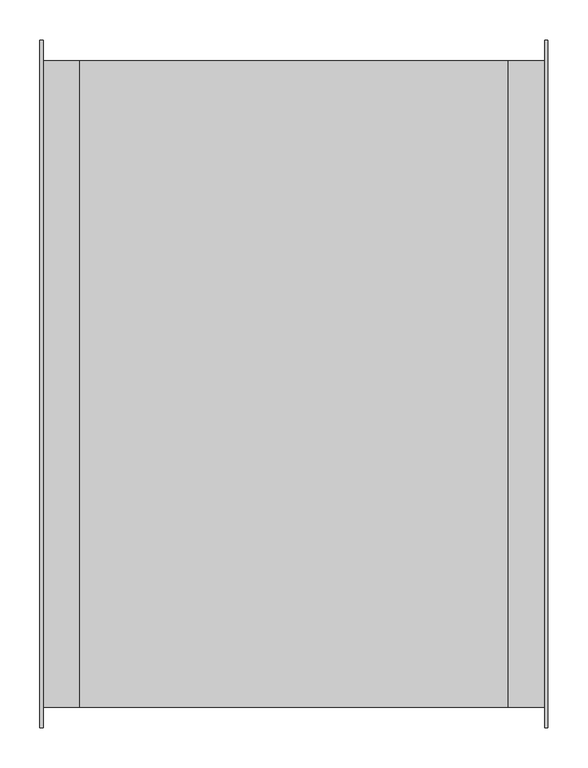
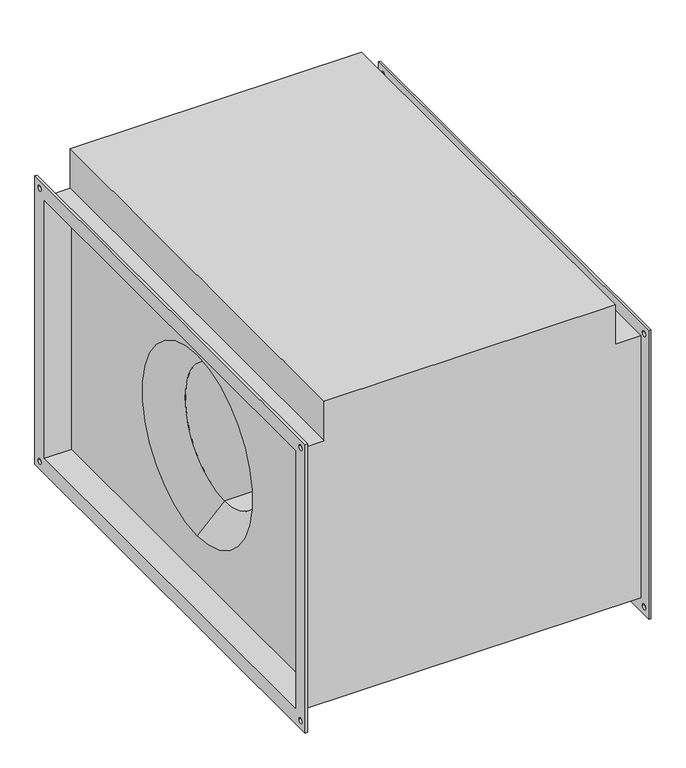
"""IFC4 building model written with IfcOpenShell, lengths in millimetres: proxy geometry, СВ_Вентилятор_КанальныйПрямоугольный_200-1000_SVPS : SVPS-800x500/35.2D."""

from ifc_helpers import new_model, si_unit, frame, origin, place, context, project, spatial, polyline, circle_curve, source, transform, mapped, element, save
from ifc_brep_helpers import plane_surface, revolved_surface, advanced_brep


def mechanical_equipment_bd9f517a(model_context):
    return source(origin(), model_context, "Body", "AdvancedBrep", [
        advanced_brep(
        [(-313.5, -404.0, 254.0), (-267.5, -404.0, 254.0), (-267.5, 404.0, 254.0), (-313.5, 404.0, 254.0), (267.5, 404.0, 331.0), (267.5, -404.0, 331.0), (267.5, -404.0, 254.0), (267.5, 404.0, 254.0), (267.5, 400.0, -250.0), (267.5, 400.0, 250.0), (267.5, -400.0, 250.0), (267.5, -400.0, -250.0), (267.5, 0.0, 175.0), (267.5, 0.0, -175.0), (-267.5, 400.0, 250.0), (-267.5, 400.0, -250.0), (-267.5, -400.0, -250.0), (-267.5, -400.0, 250.0), (-267.5, 0.0, -175.0), (-267.5, 0.0, 175.0), (-267.5, -404.0, 331.0), (-267.5, 404.0, 331.0), (-313.5, -404.0, -254.0), (313.5, -404.0, -254.0), (313.5, -404.0, 254.0), (-313.5, 404.0, -254.0), (313.5, 404.0, -254.0), (313.5, 404.0, 254.0), (217.5, 0.0, -125.0), (217.5, 0.0, 125.0), (-217.5, 0.0, 125.0), (-217.5, 0.0, -125.0), (-317.5, -430.0, 280.0), (-317.5, 430.0, 280.0), (-317.5, 430.0, -280.0), (-317.5, -430.0, -280.0), (-317.5, -400.0, 250.0), (-317.5, -400.0, -250.0), (-317.5, 400.0, -250.0), (-317.5, 400.0, 250.0), (-317.5, 410.0, 265.0), (-317.5, 420.0, 265.0), (-317.5, -420.0, 265.0), (-317.5, -410.0, 265.0), (-317.5, -420.0, -265.0), (-317.5, -410.0, -265.0), (-317.5, 410.0, -265.0), (-317.5, 420.0, -265.0), (-313.5, -430.0, 280.0), (-313.5, -430.0, -280.0), (-313.5, 430.0, -280.0), (-313.5, 430.0, 280.0), (-313.5, 420.0, 265.0), (-313.5, 410.0, 265.0), (-313.5, -410.0, 265.0), (-313.5, -420.0, 265.0), (-313.5, -410.0, -265.0), (-313.5, -420.0, -265.0), (-313.5, 420.0, -265.0), (-313.5, 410.0, -265.0), (313.5, 430.0, 280.0), (313.5, 430.0, -280.0), (313.5, -430.0, -280.0), (313.5, -430.0, 280.0), (313.5, 410.0, 265.0), (313.5, 420.0, 265.0), (313.5, -420.0, 265.0), (313.5, -410.0, 265.0), (313.5, -420.0, -265.0), (313.5, -410.0, -265.0), (313.5, 410.0, -265.0), (313.5, 420.0, -265.0), (317.5, 430.0, 280.0), (317.5, -430.0, 280.0), (317.5, -430.0, -280.0), (317.5, 430.0, -280.0), (317.5, 400.0, 250.0), (317.5, 400.0, -250.0), (317.5, -400.0, -250.0), (317.5, -400.0, 250.0), (317.5, 420.0, 265.0), (317.5, 410.0, 265.0), (317.5, -410.0, 265.0), (317.5, -420.0, 265.0), (317.5, -410.0, -265.0), (317.5, -420.0, -265.0), (317.5, 420.0, -265.0), (317.5, 410.0, -265.0)],
        [
            (0, 1),
            (1, 2),
            (2, 3),
            (3, 0),
            (4, 5),
            (5, 6),
            (6, 7),
            (7, 4),
            (8, 9),
            (9, 10),
            (10, 11),
            (11, 8),
            (12, 13, circle_curve(frame((267.5, 0.0, 0.0), z_axis=(-1.0, 0.0, 0.0), x_axis=(0.0, 0.0, 1.0)), 175.0)),
            (13, 12, circle_curve(frame((267.5, 0.0, 0.0), z_axis=(-1.0, 0.0, 0.0), x_axis=(0.0, 0.0, 1.0)), 175.0)),
            (14, 15),
            (15, 16),
            (16, 17),
            (17, 14),
            (18, 19, circle_curve(frame((-267.5, 0.0, 0.0), z_axis=(1.0, 0.0, 0.0), x_axis=(0.0, 0.0, 1.0)), 175.0)),
            (19, 18, circle_curve(frame((-267.5, 0.0, 0.0), z_axis=(1.0, 0.0, 0.0), x_axis=(0.0, 0.0, 1.0)), 175.0)),
            (20, 21),
            (21, 2),
            (1, 20),
            (5, 20),
            (0, 22),
            (22, 23),
            (23, 24),
            (24, 6),
            (22, 25),
            (25, 26),
            (26, 23),
            (21, 4),
            (7, 27),
            (27, 26),
            (25, 3),
            (24, 27),
            (28, 13),
            (12, 29),
            (29, 28, circle_curve(frame((217.5, 0.0, 0.0), z_axis=(-1.0, 0.0, 0.0), x_axis=(0.0, 0.0, 1.0)), 125.0)),
            (28, 29, circle_curve(frame((217.5, 0.0, 0.0), z_axis=(-1.0, 0.0, 0.0), x_axis=(0.0, 0.0, 1.0)), 125.0)),
            (29, 30),
            (30, 31, circle_curve(frame((-217.5, 0.0, 0.0), z_axis=(-1.0, 0.0, 0.0), x_axis=(0.0, 0.0, 1.0)), 125.0)),
            (31, 28),
            (31, 30, circle_curve(frame((-217.5, 0.0, 0.0), z_axis=(-1.0, 0.0, 0.0), x_axis=(0.0, 0.0, 1.0)), 125.0)),
            (30, 19),
            (18, 31),
            (32, 33),
            (33, 34),
            (34, 35),
            (35, 32),
            (36, 37),
            (37, 38),
            (38, 39),
            (39, 36),
            (40, 41, circle_curve(frame((-317.5, 415.0, 265.0), z_axis=(1.0, 0.0, 0.0), x_axis=(0.0, 1.0, 0.0)), 5.0)),
            (41, 40, circle_curve(frame((-317.5, 415.0, 265.0), z_axis=(1.0, 0.0, 0.0), x_axis=(0.0, 1.0, 0.0)), 5.0)),
            (42, 43, circle_curve(frame((-317.5, -415.0, 265.0), z_axis=(1.0, 0.0, 0.0), x_axis=(0.0, 1.0, 0.0)), 5.0)),
            (43, 42, circle_curve(frame((-317.5, -415.0, 265.0), z_axis=(1.0, 0.0, 0.0), x_axis=(0.0, 1.0, 0.0)), 5.0)),
            (44, 45, circle_curve(frame((-317.5, -415.0, -265.0), z_axis=(1.0, 0.0, 0.0), x_axis=(0.0, 1.0, 0.0)), 5.0)),
            (45, 44, circle_curve(frame((-317.5, -415.0, -265.0), z_axis=(1.0, 0.0, 0.0), x_axis=(0.0, 1.0, 0.0)), 5.0)),
            (46, 47, circle_curve(frame((-317.5, 415.0, -265.0), z_axis=(1.0, 0.0, 0.0), x_axis=(0.0, 1.0, 0.0)), 5.0)),
            (47, 46, circle_curve(frame((-317.5, 415.0, -265.0), z_axis=(1.0, 0.0, 0.0), x_axis=(0.0, 1.0, 0.0)), 5.0)),
            (48, 49),
            (49, 50),
            (50, 51),
            (51, 48),
            (52, 53, circle_curve(frame((-313.5, 415.0, 265.0), z_axis=(-1.0, 0.0, 0.0), x_axis=(0.0, 1.0, 0.0)), 5.0)),
            (53, 52, circle_curve(frame((-313.5, 415.0, 265.0), z_axis=(-1.0, 0.0, 0.0), x_axis=(0.0, 1.0, 0.0)), 5.0)),
            (54, 55, circle_curve(frame((-313.5, -415.0, 265.0), z_axis=(-1.0, 0.0, 0.0), x_axis=(0.0, 1.0, 0.0)), 5.0)),
            (55, 54, circle_curve(frame((-313.5, -415.0, 265.0), z_axis=(-1.0, 0.0, 0.0), x_axis=(0.0, 1.0, 0.0)), 5.0)),
            (56, 57, circle_curve(frame((-313.5, -415.0, -265.0), z_axis=(-1.0, 0.0, 0.0), x_axis=(0.0, 1.0, 0.0)), 5.0)),
            (57, 56, circle_curve(frame((-313.5, -415.0, -265.0), z_axis=(-1.0, 0.0, 0.0), x_axis=(0.0, 1.0, 0.0)), 5.0)),
            (58, 59, circle_curve(frame((-313.5, 415.0, -265.0), z_axis=(-1.0, 0.0, 0.0), x_axis=(0.0, 1.0, 0.0)), 5.0)),
            (59, 58, circle_curve(frame((-313.5, 415.0, -265.0), z_axis=(-1.0, 0.0, 0.0), x_axis=(0.0, 1.0, 0.0)), 5.0)),
            (35, 49),
            (48, 32),
            (34, 50),
            (33, 51),
            (60, 61),
            (61, 62),
            (62, 63),
            (63, 60),
            (64, 65, circle_curve(frame((313.5, 415.0, 265.0), z_axis=(1.0, 0.0, 0.0), x_axis=(0.0, 1.0, 0.0)), 5.0)),
            (65, 64, circle_curve(frame((313.5, 415.0, 265.0), z_axis=(1.0, 0.0, 0.0), x_axis=(0.0, 1.0, 0.0)), 5.0)),
            (66, 67, circle_curve(frame((313.5, -415.0, 265.0), z_axis=(1.0, 0.0, 0.0), x_axis=(0.0, 1.0, 0.0)), 5.0)),
            (67, 66, circle_curve(frame((313.5, -415.0, 265.0), z_axis=(1.0, 0.0, 0.0), x_axis=(0.0, 1.0, 0.0)), 5.0)),
            (68, 69, circle_curve(frame((313.5, -415.0, -265.0), z_axis=(1.0, 0.0, 0.0), x_axis=(0.0, 1.0, 0.0)), 5.0)),
            (69, 68, circle_curve(frame((313.5, -415.0, -265.0), z_axis=(1.0, 0.0, 0.0), x_axis=(0.0, 1.0, 0.0)), 5.0)),
            (70, 71, circle_curve(frame((313.5, 415.0, -265.0), z_axis=(1.0, 0.0, 0.0), x_axis=(0.0, 1.0, 0.0)), 5.0)),
            (71, 70, circle_curve(frame((313.5, 415.0, -265.0), z_axis=(1.0, 0.0, 0.0), x_axis=(0.0, 1.0, 0.0)), 5.0)),
            (72, 73),
            (73, 74),
            (74, 75),
            (75, 72),
            (76, 77),
            (77, 78),
            (78, 79),
            (79, 76),
            (80, 81, circle_curve(frame((317.5, 415.0, 265.0), z_axis=(-1.0, 0.0, 0.0), x_axis=(0.0, 1.0, 0.0)), 5.0)),
            (81, 80, circle_curve(frame((317.5, 415.0, 265.0), z_axis=(-1.0, 0.0, 0.0), x_axis=(0.0, 1.0, 0.0)), 5.0)),
            (82, 83, circle_curve(frame((317.5, -415.0, 265.0), z_axis=(-1.0, 0.0, 0.0), x_axis=(0.0, 1.0, 0.0)), 5.0)),
            (83, 82, circle_curve(frame((317.5, -415.0, 265.0), z_axis=(-1.0, 0.0, 0.0), x_axis=(0.0, 1.0, 0.0)), 5.0)),
            (84, 85, circle_curve(frame((317.5, -415.0, -265.0), z_axis=(-1.0, 0.0, 0.0), x_axis=(0.0, 1.0, 0.0)), 5.0)),
            (85, 84, circle_curve(frame((317.5, -415.0, -265.0), z_axis=(-1.0, 0.0, 0.0), x_axis=(0.0, 1.0, 0.0)), 5.0)),
            (86, 87, circle_curve(frame((317.5, 415.0, -265.0), z_axis=(-1.0, 0.0, 0.0), x_axis=(0.0, 1.0, 0.0)), 5.0)),
            (87, 86, circle_curve(frame((317.5, 415.0, -265.0), z_axis=(-1.0, 0.0, 0.0), x_axis=(0.0, 1.0, 0.0)), 5.0)),
            (63, 73),
            (72, 60),
            (62, 74),
            (61, 75),
            (39, 14),
            (17, 36),
            (38, 15),
            (37, 16),
            (76, 9),
            (8, 77),
            (11, 78),
            (10, 79),
            (40, 53),
            (52, 41),
            (64, 81),
            (80, 65),
            (42, 55),
            (54, 43),
            (66, 83),
            (82, 67),
            (44, 57),
            (56, 45),
            (68, 85),
            (84, 69),
            (46, 59),
            (58, 47),
            (70, 87),
            (86, 71),
        ],
        [
            plane_surface(frame((-267.5, 404.0, 254.0), z_axis=(0.0, 0.0, 1.0), x_axis=(-1.0, 0.0, 0.0))),
            plane_surface(frame((267.5, -404.0, 331.0), z_axis=(1.0, 0.0, 0.0), x_axis=(0.0, 0.0, -1.0))),
            plane_surface(frame((-267.5, -404.0, 331.0), z_axis=(-1.0, 0.0, 0.0), x_axis=(0.0, 0.0, 1.0))),
            plane_surface(frame((267.5, -404.0, 331.0), z_axis=(0.0, -1.0, 0.0), x_axis=(-1.0, 0.0, 0.0))),
            plane_surface(frame((267.5, -404.0, -254.0), z_axis=(0.0, 0.0, -1.0), x_axis=(-1.0, 0.0, 0.0))),
            plane_surface(frame((267.5, 404.0, -254.0), z_axis=(0.0, 1.0, 0.0), x_axis=(-1.0, 0.0, 0.0))),
            plane_surface(frame((267.5, 404.0, 331.0), z_axis=(0.0, 0.0, 1.0), x_axis=(-1.0, 0.0, 0.0))),
            plane_surface(frame((313.5, 404.0, 254.0), z_axis=(0.0, 0.0, 1.0), x_axis=(-1.0, 0.0, 0.0))),
            revolved_surface(polyline([(217.5, 0.0, 125.0), (267.5, 0.0, 175.0)]), (-704.5617897, 0.0, 0.0), (-1.0, 0.0, 0.0)),
            revolved_surface(polyline([(-217.5, 0.0, 125.0), (217.5, 0.0, 125.0)]), (-704.5617897, 0.0, 0.0), (-1.0, 0.0, 0.0)),
            revolved_surface(polyline([(-267.5, 0.0, 175.0), (-217.5, 0.0, 125.0)]), (-704.5617897, 0.0, 0.0), (-1.0, 0.0, 0.0)),
            plane_surface(frame((-317.5, -430.0, 280.0), z_axis=(-1.0, 0.0, 0.0), x_axis=(0.0, 0.0, 1.0))),
            plane_surface(frame((-313.5, -430.0, 280.0), z_axis=(1.0, 0.0, 0.0), x_axis=(0.0, 0.0, -1.0))),
            plane_surface(frame((-313.5, -430.0, 280.0), z_axis=(0.0, -1.0, 0.0), x_axis=(-1.0, 0.0, 0.0))),
            plane_surface(frame((-313.5, -430.0, -280.0), z_axis=(0.0, 0.0, -1.0), x_axis=(-1.0, 0.0, 0.0))),
            plane_surface(frame((-313.5, 430.0, -280.0), z_axis=(0.0, 1.0, 0.0), x_axis=(-1.0, 0.0, 0.0))),
            plane_surface(frame((-313.5, 430.0, 280.0), z_axis=(0.0, 0.0, 1.0), x_axis=(-1.0, 0.0, 0.0))),
            plane_surface(frame((313.5, 400.0, -250.0), z_axis=(-1.0, 0.0, 0.0), x_axis=(0.0, 0.0, 1.0))),
            plane_surface(frame((317.5, 400.0, -250.0), z_axis=(1.0, 0.0, 0.0), x_axis=(0.0, 0.0, -1.0))),
            plane_surface(frame((317.5, 430.0, 280.0), z_axis=(0.0, 0.0, 1.0), x_axis=(-1.0, 0.0, 0.0))),
            plane_surface(frame((317.5, -430.0, 280.0), z_axis=(0.0, -1.0, 0.0), x_axis=(-1.0, 0.0, 0.0))),
            plane_surface(frame((317.5, -430.0, -280.0), z_axis=(0.0, 0.0, -1.0), x_axis=(-1.0, 0.0, 0.0))),
            plane_surface(frame((317.5, 430.0, -280.0), z_axis=(0.0, 1.0, 0.0), x_axis=(-1.0, 0.0, 0.0))),
            plane_surface(frame((-313.5, -400.0, 250.0), z_axis=(0.0, 0.0, -1.0), x_axis=(-1.0, 0.0, 0.0))),
            plane_surface(frame((-313.5, 400.0, 250.0), z_axis=(0.0, -1.0, 0.0), x_axis=(-1.0, 0.0, 0.0))),
            plane_surface(frame((-313.5, 400.0, -250.0), z_axis=(0.0, 0.0, 1.0), x_axis=(-1.0, 0.0, 0.0))),
            plane_surface(frame((-313.5, -400.0, -250.0), z_axis=(0.0, 1.0, 0.0), x_axis=(-1.0, 0.0, 0.0))),
            plane_surface(frame((317.5, 400.0, 250.0), z_axis=(0.0, -1.0, 0.0), x_axis=(-1.0, 0.0, 0.0))),
            plane_surface(frame((317.5, 400.0, -250.0), z_axis=(0.0, 0.0, 1.0), x_axis=(-1.0, 0.0, 0.0))),
            plane_surface(frame((317.5, -400.0, -250.0), z_axis=(0.0, 1.0, 0.0), x_axis=(-1.0, 0.0, 0.0))),
            plane_surface(frame((317.5, -400.0, 250.0), z_axis=(0.0, 0.0, -1.0), x_axis=(-1.0, 0.0, 0.0))),
            revolved_surface(polyline([(-313.5, 420.0, 265.0), (-317.5, 420.0, 265.0)]), (-317.5, 415.0, 265.0), (1.0, 0.0, 0.0)),
            revolved_surface(polyline([(317.5, 420.0, 265.0), (313.5, 420.0, 265.0)]), (-317.5, 415.0, 265.0), (1.0, 0.0, 0.0)),
            revolved_surface(polyline([(-313.5, -410.0, 265.0), (-317.5, -410.0, 265.0)]), (0.0, -415.0, 265.0), (1.0, 0.0, 0.0)),
            revolved_surface(polyline([(317.5, -410.0, 265.0), (313.5, -410.0, 265.0)]), (0.0, -415.0, 265.0), (1.0, 0.0, 0.0)),
            revolved_surface(polyline([(-313.5, -410.0, -265.0), (-317.5, -410.0, -265.0)]), (0.0, -415.0, -265.0), (1.0, 0.0, 0.0)),
            revolved_surface(polyline([(317.5, -410.0, -265.0), (313.5, -410.0, -265.0)]), (0.0, -415.0, -265.0), (1.0, 0.0, 0.0)),
            revolved_surface(polyline([(-313.5, 420.0, -265.0), (-317.5, 420.0, -265.0)]), (0.0, 415.0, -265.0), (1.0, 0.0, 0.0)),
            revolved_surface(polyline([(317.5, 420.0, -265.0), (313.5, 420.0, -265.0)]), (0.0, 415.0, -265.0), (1.0, 0.0, 0.0)),
        ],
        [
            (0, [[1, 2, 3, 4]]),
            (1, [[5, 6, 7, 8]]),
            (1, [[9, 10, 11, 12], [13, 14]]),
            (2, [[15, 16, 17, 18], [19, 20]]),
            (2, [[21, 22, -2, 23]]),
            (3, [[24, -23, -1, 25, 26, 27, 28, -6]]),
            (4, [[-26, 29, 30, 31]]),
            (5, [[32, -8, 33, 34, -30, 35, -3, -22]]),
            (6, [[-5, -32, -21, -24]]),
            (7, [[-28, 36, -33, -7]]),
            (8, [[37, -13, 38, 39]]),
            (8, [[-37, 40, -38, -14]]),
            (9, [[-39, 41, 42, 43]]),
            (9, [[-40, -43, 44, -41]]),
            (10, [[-42, 45, -19, 46]]),
            (10, [[-44, -46, -20, -45]]),
            (11, [[47, 48, 49, 50], [51, 52, 53, 54], [55, 56], [57, 58], [59, 60], [61, 62]]),
            (12, [[63, 64, 65, 66], [-25, -4, -35, -29], [67, 68], [69, 70], [71, 72], [73, 74]]),
            (13, [[-50, 75, -63, 76]]),
            (14, [[-49, 77, -64, -75]]),
            (15, [[-48, 78, -65, -77]]),
            (16, [[-47, -76, -66, -78]]),
            (17, [[79, 80, 81, 82], [-27, -31, -34, -36], [83, 84], [85, 86], [87, 88], [89, 90]]),
            (18, [[91, 92, 93, 94], [95, 96, 97, 98], [99, 100], [101, 102], [103, 104], [105, 106]]),
            (19, [[-82, 107, -91, 108]]),
            (20, [[-81, 109, -92, -107]]),
            (21, [[-80, 110, -93, -109]]),
            (22, [[-79, -108, -94, -110]]),
            (23, [[-54, 111, -18, 112]]),
            (24, [[-53, 113, -15, -111]]),
            (25, [[-52, 114, -16, -113]]),
            (26, [[-51, -112, -17, -114]]),
            (27, [[-95, 115, -9, 116]]),
            (28, [[-96, -116, -12, 117]]),
            (29, [[-97, -117, -11, 118]]),
            (30, [[-115, -98, -118, -10]]),
            (31, [[119, -67, 120, -55]]),
            (32, [[121, -99, 122, -83]]),
            (31, [[-119, -56, -120, -68]]),
            (32, [[-121, -84, -122, -100]]),
            (33, [[123, -69, 124, -57]]),
            (34, [[125, -101, 126, -85]]),
            (33, [[-123, -58, -124, -70]]),
            (34, [[-125, -86, -126, -102]]),
            (35, [[127, -71, 128, -59]]),
            (36, [[129, -103, 130, -87]]),
            (35, [[-127, -60, -128, -72]]),
            (36, [[-129, -88, -130, -104]]),
            (37, [[131, -73, 132, -61]]),
            (38, [[133, -105, 134, -89]]),
            (37, [[-131, -62, -132, -74]]),
            (38, [[-133, -90, -134, -106]]),
        ],
    ),
    ])


if __name__ == "__main__":
    model = new_model("IFC4")
    model_context = context("Model", 3, world=origin())
    ifc_project = project(units=[si_unit("LENGTHUNIT", "METRE", prefix="MILLI")], contexts=[model_context])
    site = spatial("IfcSite", under=ifc_project)
    building = spatial("IfcBuilding", under=site)
    placement = place(None, origin())
    mechanical_equipment_shape = mechanical_equipment_bd9f517a(model_context)
    element("IfcBuildingElementProxy", 1, Name="СВ_Вентилятор_КанальныйПрямоугольный_200-1000_SVPS : SVPS-800x500/35.2D", ObjectType="СВ_Вентилятор_КанальныйПрямоугольный_200-1000_SVPS : SVPS-800x500/35.2D", at=placement, inside=building, context=model_context, shape_type="MappedRepresentation", body=[
        mapped(mechanical_equipment_shape, transform((0.0, 0.0, 0.0), x_axis=(1.0, 0.0, 0.0), y_axis=(0.0, 1.0, 0.0), z_axis=(0.0, 0.0, 1.0))),
    ])
    save(model, "model.ifc")
